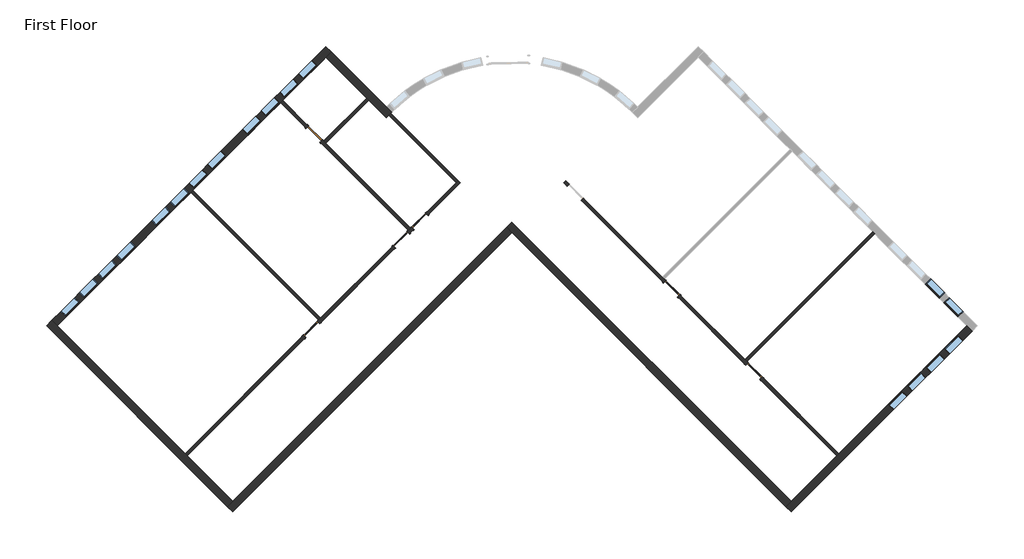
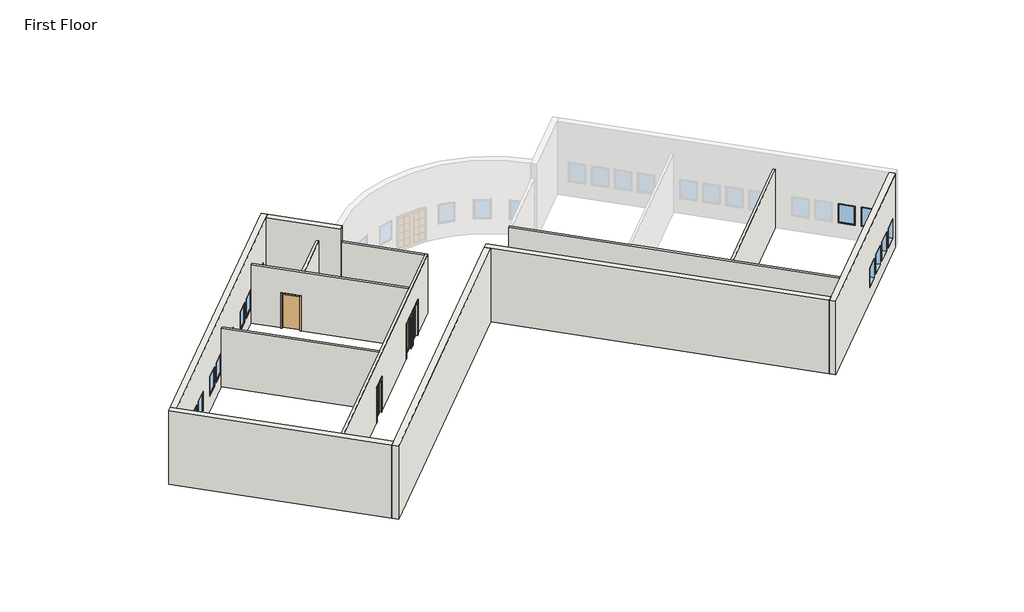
# One storey, part 1 of 2: 18 windows, 13 walls, 6 doors.
"""IFC4 building model written with IfcOpenShell, lengths in millimetres."""

import ifcopenshell
import ifcopenshell.guid

model = None  # the IFC model being written
_history = None  # IfcOwnerHistory: only IFC2X3 demands one
_inside = {}  # id of a spatial element -> (the spatial element, [elements in it])
_under = {}  # id of a project, library or spatial element -> (it, [spatial elements below it])
_declared = {}  # id of a project -> (the project, [libraries it declares])
_typed = {}  # id of a type object -> (the type object, [elements of that type])
_made_of = {}  # id of a material, layer set ... -> (it, [elements and type objects made of it])


def new_model(schema):
    """Start an empty IFC model of exactly this schema.

    Asked for "IFC4X3", IfcOpenShell would pick the latest addendum, in which some entities
    have other attributes; the version numbers below select the first issue.
    IFC2X3 requires an IfcOwnerHistory on every rooted entity: one is made here for all.
    """
    global model, _history
    if schema == "IFC4X3":
        model = ifcopenshell.file(schema_version=(4, 3, 0, 0))
    else:
        model = ifcopenshell.file(schema=schema)
    _inside.clear()
    _under.clear()
    _declared.clear()
    _typed.clear()
    _made_of.clear()
    _history = None
    if model.schema == "IFC2X3":
        org = make("IfcOrganization", Name="unknown")
        user = make(
            "IfcPersonAndOrganization",
            ThePerson=make("IfcPerson", FamilyName="unknown"),
            TheOrganization=org,
        )
        app = make(
            "IfcApplication",
            ApplicationDeveloper=org,
            Version="unknown",
            ApplicationFullName="unknown",
            ApplicationIdentifier="unknown",
        )
        _history = make(
            "IfcOwnerHistory",
            OwningUser=user,
            OwningApplication=app,
            ChangeAction="ADDED",
            CreationDate=0,
        )
    return model


def make(cls, **values):
    """One entity of the class cls with the attributes given. An attribute that is None is left unset."""
    return model.create_entity(
        cls, **{name: value for name, value in values.items() if value is not None}
    )


def rooted(cls, **values):
    """An entity with a GlobalId (a new one), such as an element, a storey or a relation."""
    return make(cls, GlobalId=ifcopenshell.guid.new(), OwnerHistory=_history, **values)


def si_unit(unit_type, name, prefix=None):
    """IfcSIUnit, for example si_unit("LENGTHUNIT", "METRE", prefix="MILLI")."""
    return make("IfcSIUnit", UnitType=unit_type, Prefix=prefix, Name=name)


def assignment(units):
    """IfcUnitAssignment: the units of a project."""
    return None if units is None else make("IfcUnitAssignment", Units=units)


def point(xyz):
    """IfcCartesianPoint."""
    return None if xyz is None else make("IfcCartesianPoint", Coordinates=xyz)


def direction(xyz):
    """IfcDirection."""
    return None if xyz is None else make("IfcDirection", DirectionRatios=xyz)


def frame(location, z_axis=None, x_axis=None):
    """IfcAxis2Placement3D, a coordinate frame: its origin and axes. An axis left out is left unset."""
    return make(
        "IfcAxis2Placement3D",
        Location=point(location),
        Axis=direction(z_axis),
        RefDirection=direction(x_axis),
    )


def frame_2d(location, x_axis=None):
    """IfcAxis2Placement2D, a coordinate frame in the plane: its origin and x axis."""
    return make(
        "IfcAxis2Placement2D", Location=point(location), RefDirection=direction(x_axis)
    )


def origin():
    """The frame at (0, 0, 0) with its axes left unset."""
    return frame((0.0, 0.0, 0.0))


def origin_with_axes():
    """The frame at (0, 0, 0) with the z axis (0, 0, 1) and the x axis (1, 0, 0) written out."""
    return frame((0.0, 0.0, 0.0), z_axis=(0.0, 0.0, 1.0), x_axis=(1.0, 0.0, 0.0))


def place(relative_to, where):
    """IfcLocalPlacement: puts the frame where relative to a parent placement (None: the world)."""
    return make(
        "IfcLocalPlacement", PlacementRelTo=relative_to, RelativePlacement=where
    )


def context(
    kind, dimensions, precision=None, world=None, true_north=None, identifier=None
):
    """IfcGeometricRepresentationContext, for example the 3D "Model" context."""
    return make(
        "IfcGeometricRepresentationContext",
        ContextIdentifier=identifier,
        ContextType=kind,
        CoordinateSpaceDimension=dimensions,
        Precision=precision,
        WorldCoordinateSystem=world,
        TrueNorth=true_north,
    )


def project(units=None, contexts=None):
    """IfcProject with its units and contexts."""
    return rooted(
        "IfcProject",
        Name="project",
        RepresentationContexts=contexts,
        UnitsInContext=assignment(units),
    )


def spatial(cls, under=None, at=None, **own):
    """A site, building, storey or space (cls), placed at a placement, below another one or the project."""
    s = rooted(cls, ObjectPlacement=at, **own)
    if under is not None:
        _under.setdefault(under.id(), (under, []))[1].append(s)
    return s


def polyline(points):
    """IfcPolyline through the points."""
    return make("IfcPolyline", Points=[point(p) for p in points])


def circle_curve(where, radius):
    """IfcCircle in the frame where."""
    return make("IfcCircle", Position=where, Radius=radius)


def trimmed(basis, trim1, trim2, sense, master):
    """IfcTrimmedCurve: the piece of a basis curve between two trims."""
    return make(
        "IfcTrimmedCurve",
        BasisCurve=basis,
        Trim1=trim1,
        Trim2=trim2,
        SenseAgreement=sense,
        MasterRepresentation=master,
    )


def segment(curve, same_sense, transition):
    """IfcCompositeCurveSegment."""
    return make(
        "IfcCompositeCurveSegment",
        Transition=transition,
        SameSense=same_sense,
        ParentCurve=curve,
    )


def composite_curve(segments, self_intersect=None):
    """IfcCompositeCurve: segments joined end to end."""
    return make("IfcCompositeCurve", Segments=segments, SelfIntersect=self_intersect)


def outline(outer, holes=None, kind="AREA"):
    """IfcArbitraryClosedProfileDef: a profile drawn as a closed curve; with holes, ...WithVoids."""
    if holes is None:
        return make("IfcArbitraryClosedProfileDef", ProfileType=kind, OuterCurve=outer)
    return make(
        "IfcArbitraryProfileDefWithVoids",
        ProfileType=kind,
        OuterCurve=outer,
        InnerCurves=holes,
    )


def extrude(swept, where, along, depth):
    """IfcExtrudedAreaSolid: the profile swept, set in the frame where, extruded along a direction by depth."""
    return make(
        "IfcExtrudedAreaSolid",
        SweptArea=swept,
        Position=where,
        ExtrudedDirection=direction(along),
        Depth=depth,
    )


def faces_of(points, faces, orient=None, outer=None):
    """IfcFace entities. A face is a list of loops; a loop is a list of indices into points, from 0.

    orient and outer hold one flag for each loop. By default every Orientation is true, the
    first loop of a face is its IfcFaceOuterBound and the others are IfcFaceBound.
    """
    made = []
    for i, loops in enumerate(faces):
        bounds = []
        for j, loop in enumerate(loops):
            is_outer = j == 0 if outer is None else outer[i][j]
            bounds.append(
                make(
                    "IfcFaceOuterBound" if is_outer else "IfcFaceBound",
                    Bound=make("IfcPolyLoop", Polygon=[points[k] for k in loop]),
                    Orientation=True if orient is None else orient[i][j],
                )
            )
        made.append(make("IfcFace", Bounds=bounds))
    return made


def faceted_brep(points, faces, orient=None, outer=None, voids=None):
    """IfcFacetedBrep: a solid bounded by flat faces; with voids (closed shells), ...WithVoids."""
    shared = [point(p) for p in points]
    hull = make("IfcClosedShell", CfsFaces=faces_of(shared, faces, orient, outer))
    if voids is None:
        return make("IfcFacetedBrep", Outer=hull)
    return make(
        "IfcFacetedBrepWithVoids",
        Outer=hull,
        Voids=[
            make(cls, CfsFaces=faces_of(shared, fs, o, b)) for cls, fs, o, b in voids
        ],
    )


def shape(context_of_items, identifier, shape_type, items):
    """IfcShapeRepresentation: the items that make up one representation, for example the "Body"."""
    return make(
        "IfcShapeRepresentation",
        ContextOfItems=context_of_items,
        RepresentationIdentifier=identifier,
        RepresentationType=shape_type,
        Items=items,
    )


def source(mapping_origin, context_of_items, identifier, shape_type, items):
    """IfcRepresentationMap: a shape defined once, which mapped items show again and again."""
    return make(
        "IfcRepresentationMap",
        MappingOrigin=mapping_origin,
        MappedRepresentation=shape(context_of_items, identifier, shape_type, items),
    )


def transform(
    local_origin,
    x_axis=None,
    y_axis=None,
    z_axis=None,
    scale=None,
    scale2=None,
    scale3=None,
    uniform=True,
):
    """IfcCartesianTransformationOperator3D, or its non-uniform kind. x_axis, y_axis, z_axis: its Axis1, 2, 3."""
    if uniform:
        return make(
            "IfcCartesianTransformationOperator3D",
            Axis1=direction(x_axis),
            Axis2=direction(y_axis),
            LocalOrigin=point(local_origin),
            Scale=scale,
            Axis3=direction(z_axis),
        )
    return make(
        "IfcCartesianTransformationOperator3DnonUniform",
        Axis1=direction(x_axis),
        Axis2=direction(y_axis),
        LocalOrigin=point(local_origin),
        Scale=scale,
        Axis3=direction(z_axis),
        Scale2=scale2,
        Scale3=scale3,
    )


def mapped(mapping_source, mapping_target):
    """IfcMappedItem: shows the shape of a source again, moved by a transform."""
    return make(
        "IfcMappedItem", MappingSource=mapping_source, MappingTarget=mapping_target
    )


def made_of(thing, what):
    """Note that an element or type object is made of a material, layer set ...; save() writes the relation."""
    if what is not None:
        _made_of.setdefault(what.id(), (what, []))[1].append(thing)
    return thing


def element(
    cls,
    number,
    at=None,
    inside=None,
    cuts=None,
    type_object=None,
    material=None,
    context=None,
    identifier="Body",
    shape_type=None,
    held_by="IfcProductDefinitionShape",
    body=None,
    shapes=None,
    **own,
):
    """One element of the class cls, such as IfcWall. Its Tag is "e" and its number.

    at: its placement. inside: the storey or other place that contains it. cuts: it is an
    opening in that element (IfcRelVoidsElement). A single representation is given by context,
    identifier, shape_type and body (its items); several are given by shapes. held_by: the class
    of the entity that holds the representations. save() writes the other relations.
    """
    e = rooted(cls, Tag="e%d" % number, ObjectPlacement=at, **own)
    if body is not None:
        shapes = [shape(context, identifier, shape_type, body)]
    if shapes is not None:
        e.Representation = make(held_by, Representations=shapes)
    if inside is not None:
        _inside.setdefault(inside.id(), (inside, []))[1].append(e)
    if cuts is not None:
        rooted(
            "IfcRelVoidsElement", RelatingBuildingElement=cuts, RelatedOpeningElement=e
        )
    if type_object is not None:
        _typed.setdefault(type_object.id(), (type_object, []))[1].append(e)
    return made_of(e, material)


def aggregate(whole, parts):
    """IfcRelAggregates: a whole, such as a stair, and the parts it consists of."""
    return rooted("IfcRelAggregates", RelatingObject=whole, RelatedObjects=parts)


def save(model, path):
    """Write the relations noted so far, then the file.

    IfcRelAggregates (storeys below a building ...), IfcRelContainedInSpatialStructure (elements
    in a storey), IfcRelDefinesByType, IfcRelAssociatesMaterial and IfcRelDeclares: one each for
    every whole, place, type object, material and project.
    """
    for whole, parts in _under.values():
        aggregate(whole, parts)
    for where, things in _inside.values():
        rooted(
            "IfcRelContainedInSpatialStructure",
            RelatedElements=things,
            RelatingStructure=where,
        )
    for kind, things in _typed.values():
        rooted("IfcRelDefinesByType", RelatedObjects=things, RelatingType=kind)
    for what, things in _made_of.values():
        rooted("IfcRelAssociatesMaterial", RelatedObjects=things, RelatingMaterial=what)
    for by, libraries in _declared.values():
        rooted("IfcRelDeclares", RelatingContext=by, RelatedDefinitions=libraries)
    model.write(path)


def plane_surface(at):
    """IfcPlane: the flat surface through the origin of the frame at, square to its z axis."""
    return make("IfcPlane", Position=at)


def revolved_surface(curve, axis_point, axis_direction):
    """IfcSurfaceOfRevolution: the curve turned about the line through axis_point along axis_direction."""
    return make(
        "IfcSurfaceOfRevolution",
        SweptCurve=make("IfcArbitraryOpenProfileDef", ProfileType="CURVE", Curve=curve),
        AxisPosition=make("IfcAxis1Placement", Location=point(axis_point), Axis=direction(axis_direction)),
    )


def advanced_brep(points, edges, surfaces, faces):
    """IfcAdvancedBrep: a solid bounded by faces that lie on surfaces and meet in shared edges.

    An edge is (start, end): straight between two places in points (the first is 0);
    or (start, end, curve); or (start, end, curve, False) where it runs against its curve.
    A face is (place in surfaces, loops), or (place, loops, False) where it looks against
    its surface's normal. A loop lists edges by number (the first is 1), with a minus sign
    where the edge is run from its end to its start. The first loop is the outer one.
    """
    corners = [point(p) for p in points]
    vertices = [make("IfcVertexPoint", VertexGeometry=c) for c in corners]
    made = []
    for start, end, *more in edges:
        made.append(
            make(
                "IfcEdgeCurve",
                EdgeStart=vertices[start],
                EdgeEnd=vertices[end],
                EdgeGeometry=more[0] if more else make("IfcPolyline", Points=[corners[start], corners[end]]),
                SameSense=more[1] if len(more) > 1 else True,
            )
        )
    hull = []
    for where, loops, *sense in faces:
        bounds = []
        for j, loop in enumerate(loops):
            ring = [make("IfcOrientedEdge", EdgeElement=made[abs(k) - 1], Orientation=k > 0) for k in loop]
            bounds.append(
                make(
                    "IfcFaceOuterBound" if j == 0 else "IfcFaceBound",
                    Bound=make("IfcEdgeLoop", EdgeList=ring),
                    Orientation=True,
                )
            )
        hull.append(make("IfcAdvancedFace", Bounds=bounds, FaceSurface=surfaces[where], SameSense=sense[0] if sense else True))
    return make("IfcAdvancedBrep", Outer=make("IfcClosedShell", CfsFaces=hull))


def m_single_flush_0915_x_2134mm_83e8e835(model_context):
    return source(origin(), model_context, "Body", "SweptSolid", [
        extrude(outline(polyline([(2210.0, -533.5), (0.0, -533.5), (0.0, -457.5), (2134.0, -457.5), (2134.0, 457.5), (0.0, 457.5), (0.0, 533.5), (2210.0, 533.5), (2210.0, -533.5)])), frame((0.0, 69.25, 0.0), z_axis=(0.0, 1.0, 0.0), x_axis=(0.0, 0.0, 1.0)), (0.0, 0.0, 1.0), 25.0),
        extrude(outline(polyline([(2210.0, 533.5), (2210.0, -533.5), (0.0, -533.5), (0.0, -457.5), (2134.0, -457.5), (2134.0, 457.5), (0.0, 457.5), (0.0, 533.5), (2210.0, 533.5)])), frame((0.0, -94.25, 0.0), z_axis=(0.0, 1.0, 0.0), x_axis=(0.0, 0.0, 1.0)), (0.0, 0.0, 1.0), 25.0),
        extrude(outline(polyline([(457.5, 18.25), (-457.5, 18.25), (-457.5, 69.25), (457.5, 69.25), (457.5, 18.25)])), origin_with_axes(), (0.0, 0.0, 1.0), 2134.0),
    ])


def m_single_glass_1_0915_x_2134mm_fb3287b7(model_context):
    return source(origin(), model_context, "Body", "SweptSolid", [
        extrude(outline(polyline([(2134.0, 457.5), (0.0, 457.5), (0.0, 533.5), (2210.0, 533.5), (2210.0, -533.5), (0.0, -533.5), (0.0, -457.5), (2134.0, -457.5), (2134.0, 457.5)])), frame((0.0, -94.25, 0.0), z_axis=(0.0, 1.0, 0.0), x_axis=(0.0, 0.0, 1.0)), (0.0, 0.0, 1.0), 25.0),
        extrude(outline(polyline([(2134.0, 457.5), (0.0, 457.5), (0.0, 533.5), (2210.0, 533.5), (2210.0, -533.5), (0.0, -533.5), (0.0, -457.5), (2134.0, -457.5), (2134.0, 457.5)])), frame((0.0, 69.25, 0.0), z_axis=(0.0, 1.0, 0.0), x_axis=(0.0, 0.0, 1.0)), (0.0, 0.0, 1.0), 25.0),
        extrude(outline(polyline([(355.5, 40.675), (-355.5, 40.675), (-355.5, 47.025), (355.5, 47.025), (355.5, 40.675)])), frame((0.0, 0.0, 102.0), z_axis=(0.0, 0.0, 1.0), x_axis=(1.0, 0.0, 0.0)), (0.0, 0.0, 1.0), 1930.0),
        extrude(outline(polyline([(2134.0, 457.5), (2134.0, -457.5), (0.0, -457.5), (0.0, 457.5), (2134.0, 457.5)]), holes=[polyline([(2032.0, -355.5), (2032.0, 355.5), (102.0, 355.5), (102.0, -355.5), (2032.0, -355.5)])]), frame((0.0, 18.25, 0.0), z_axis=(0.0, 1.0, 0.0), x_axis=(0.0, 0.0, 1.0)), (0.0, 0.0, 1.0), 51.0),
    ])


def m_single_glass_1_0915_x_2134mm_4e5e1233(model_context):
    return source(origin(), model_context, "Body", "SweptSolid", [
        extrude(outline(polyline([(2134.0, 457.5), (0.0, 457.5), (0.0, 533.5), (2210.0, 533.5), (2210.0, -533.5), (0.0, -533.5), (0.0, -457.5), (2134.0, -457.5), (2134.0, 457.5)])), frame((0.0, 69.25, 0.0), z_axis=(0.0, 1.0, 0.0), x_axis=(0.0, 0.0, 1.0)), (0.0, 0.0, 1.0), 25.0),
        extrude(outline(polyline([(2134.0, 457.5), (0.0, 457.5), (0.0, 533.5), (2210.0, 533.5), (2210.0, -533.5), (0.0, -533.5), (0.0, -457.5), (2134.0, -457.5), (2134.0, 457.5)])), frame((0.0, -94.25, 0.0), z_axis=(0.0, 1.0, 0.0), x_axis=(0.0, 0.0, 1.0)), (0.0, 0.0, 1.0), 25.0),
        extrude(outline(polyline([(355.5, -40.675), (355.5, -47.025), (-355.5, -47.025), (-355.5, -40.675), (355.5, -40.675)])), frame((0.0, 0.0, 102.0), z_axis=(0.0, 0.0, 1.0), x_axis=(1.0, 0.0, 0.0)), (0.0, 0.0, 1.0), 1930.0),
        extrude(outline(polyline([(2134.0, 457.5), (2134.0, -457.5), (0.0, -457.5), (0.0, 457.5), (2134.0, 457.5)]), holes=[polyline([(2032.0, -355.5), (2032.0, 355.5), (102.0, 355.5), (102.0, -355.5), (2032.0, -355.5)])]), frame((0.0, -69.25, 0.0), z_axis=(0.0, 1.0, 0.0), x_axis=(0.0, 0.0, 1.0)), (0.0, 0.0, 1.0), 51.0),
    ])


def m_fixed_0915_x_1220mm_bde29121(model_context):
    return source(origin(), model_context, "Body", "SweptSolid", [
        extrude(outline(polyline([(-394.5, 153.0), (394.5, 153.0), (394.5, 141.0), (-394.5, 141.0), (-394.5, 153.0)])), frame((0.0, 0.0, 978.0), z_axis=(0.0, 0.0, 1.0), x_axis=(1.0, 0.0, 0.0)), (0.0, 0.0, 1.0), 1094.0),
        extrude(outline(polyline([(2116.0, -438.5), (934.0, -438.5), (934.0, 438.5), (2116.0, 438.5), (2116.0, -438.5)]), holes=[polyline([(2072.0, -394.5), (2072.0, 394.5), (978.0, 394.5), (978.0, -394.5), (2072.0, -394.5)])]), frame((0.0, 125.0, 0.0), z_axis=(0.0, 1.0, 0.0), x_axis=(0.0, 0.0, 1.0)), (0.0, 0.0, 1.0), 44.0),
        extrude(outline(polyline([(2135.0, -457.5), (915.0, -457.5), (915.0, 457.5), (2135.0, 457.5), (2135.0, -457.5)]), holes=[polyline([(2116.0, -438.5), (2116.0, 438.5), (934.0, 438.5), (934.0, -438.5), (2116.0, -438.5)])]), frame((0.0, 125.0, 0.0), z_axis=(0.0, 1.0, 0.0), x_axis=(0.0, 0.0, 1.0)), (0.0, 0.0, 1.0), 63.0),
        extrude(outline(polyline([(2135.0, -457.5), (915.0, -457.5), (915.0, 457.5), (2135.0, 457.5), (2135.0, -457.5)]), holes=[polyline([(2103.0, -425.5), (2103.0, 425.5), (947.0, 425.5), (947.0, -425.5), (2103.0, -425.5)])]), frame((0.0, -162.0, 0.0), z_axis=(0.0, 1.0, 0.0), x_axis=(0.0, 0.0, 1.0)), (0.0, 0.0, 1.0), 287.0),
    ])


def m_fixed_0915_x_1220mm_2a2509e7(model_context):
    return source(origin(), model_context, "Body", "SweptSolid", [
        extrude(outline(polyline([(-394.5, -153.0), (-394.5, -141.0), (394.5, -141.0), (394.5, -153.0), (-394.5, -153.0)])), frame((0.0, 0.0, 978.0), z_axis=(0.0, 0.0, 1.0), x_axis=(1.0, 0.0, 0.0)), (0.0, 0.0, 1.0), 1094.0),
        extrude(outline(polyline([(2116.0, -438.5), (934.0, -438.5), (934.0, 438.5), (2116.0, 438.5), (2116.0, -438.5)]), holes=[polyline([(2072.0, -394.5), (2072.0, 394.5), (978.0, 394.5), (978.0, -394.5), (2072.0, -394.5)])]), frame((0.0, -169.0, 0.0), z_axis=(0.0, 1.0, 0.0), x_axis=(0.0, 0.0, 1.0)), (0.0, 0.0, 1.0), 44.0),
        extrude(outline(polyline([(2135.0, -457.5), (915.0, -457.5), (915.0, 457.5), (2135.0, 457.5), (2135.0, -457.5)]), holes=[polyline([(2116.0, -438.5), (2116.0, 438.5), (934.0, 438.5), (934.0, -438.5), (2116.0, -438.5)])]), frame((0.0, -188.0, 0.0), z_axis=(0.0, 1.0, 0.0), x_axis=(0.0, 0.0, 1.0)), (0.0, 0.0, 1.0), 63.0),
        extrude(outline(polyline([(2135.0, -457.5), (915.0, -457.5), (915.0, 457.5), (2135.0, 457.5), (2135.0, -457.5)]), holes=[polyline([(2103.0, -425.5), (2103.0, 425.5), (947.0, 425.5), (947.0, -425.5), (2103.0, -425.5)])]), frame((0.0, -125.0, 0.0), z_axis=(0.0, 1.0, 0.0), x_axis=(0.0, 0.0, 1.0)), (0.0, 0.0, 1.0), 287.0),
    ])


model = new_model("IFC4")

# Units and contexts
model_context = context("Model", 3, world=origin())
ifc_project = project(units=[si_unit("LENGTHUNIT", "METRE", prefix="MILLI")], contexts=[model_context])

# Site, building, storey
site = spatial("IfcSite", under=ifc_project)
building = spatial("IfcBuilding", under=site)
storey = spatial("IfcBuildingStorey", under=building, Name="First Floor", Elevation=0.0)

# Doors
placement = place(None, origin())
m_single_flush_0915_x_2134mm_shape = m_single_flush_0915_x_2134mm_83e8e835(model_context)
element("IfcDoor", 1, ObjectType="M_Single-Flush : 0915 x 2134mm", at=placement, inside=storey, context=model_context, shape_type="MappedRepresentation", body=[
    mapped(m_single_flush_0915_x_2134mm_shape, transform((-10762.6979297, 6563.7995594, 0.0), x_axis=(0.7071067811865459, -0.7071067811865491, 0.0), y_axis=(0.7071067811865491, 0.7071067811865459, 0.0), z_axis=(0.0, 0.0, 1.0))),
])
m_single_glass_1_0915_x_2134mm_shape = m_single_glass_1_0915_x_2134mm_fb3287b7(model_context)
element("IfcDoor", 2, ObjectType="M_Single-Glass 1 : 0915 x 2134mm", at=placement, inside=storey, context=model_context, shape_type="MappedRepresentation", body=[
    mapped(m_single_glass_1_0915_x_2134mm_shape, transform((-10885.2041795, -2483.8084826, 0.0), x_axis=(0.7071067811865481, 0.7071067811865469, 0.0), y_axis=(-0.7071067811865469, 0.7071067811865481, 0.0), z_axis=(0.0, 0.0, 1.0))),
])
element("IfcDoor", 3, ObjectType="M_Single-Glass 1 : 0915 x 2134mm", at=placement, inside=storey, context=model_context, shape_type="MappedRepresentation", body=[
    mapped(m_single_glass_1_0915_x_2134mm_shape, transform((-6731.4821701, 1669.9135268, 0.0), x_axis=(0.7071067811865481, 0.7071067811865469, 0.0), y_axis=(-0.7071067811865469, 0.7071067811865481, 0.0), z_axis=(0.0, 0.0, 1.0))),
])
m_single_glass_1_0915_x_2134mm_2_shape = m_single_glass_1_0915_x_2134mm_4e5e1233(model_context)
element("IfcDoor", 4, ObjectType="M_Single-Glass 1 : 0915 x 2134mm", at=placement, inside=storey, context=model_context, shape_type="MappedRepresentation", body=[
    mapped(m_single_glass_1_0915_x_2134mm_2_shape, transform((-5868.8118971, 2532.5837999, 0.0), x_axis=(-0.7071067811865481, -0.7071067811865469, 0.0), y_axis=(0.7071067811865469, -0.7071067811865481, 0.0), z_axis=(0.0, 0.0, 1.0))),
])
element("IfcDoor", 5, ObjectType="M_Single-Glass 1 : 0915 x 2134mm", at=placement, inside=storey, context=model_context, shape_type="MappedRepresentation", body=[
    mapped(m_single_glass_1_0915_x_2134mm_2_shape, transform((5790.8485946, -591.9442895, 0.0), x_axis=(-0.7071067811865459, 0.7071067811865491, 0.0), y_axis=(-0.7071067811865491, -0.7071067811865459, 0.0), z_axis=(0.0, 0.0, 1.0))),
])
element("IfcDoor", 6, ObjectType="M_Single-Glass 1 : 0915 x 2134mm", at=placement, inside=storey, context=model_context, shape_type="MappedRepresentation", body=[
    mapped(m_single_glass_1_0915_x_2134mm_2_shape, transform((9606.3967859, -4407.4924808, 0.0), x_axis=(-0.7071067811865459, 0.7071067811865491, 0.0), y_axis=(-0.7071067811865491, -0.7071067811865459, 0.0), z_axis=(0.0, 0.0, 1.0))),
])

# Walls
element("IfcWall", 7, ObjectType="Exterior - Brick on Mtl. Stud", at=placement, inside=storey, context=model_context, shape_type="Brep", body=[
    faceted_brep([(19456.3942478, -2315.870622, 0.0), (13534.5517321, -8237.7131378, 0.0), (13436.6174429, -8335.647427, 0.0), (11330.3231184, -10441.9417514, 0.0), (11082.835745, -10689.4291248, 0.0), (11082.835745, -10689.4291248, 4572.0), (11330.3231184, -10441.9417514, 4572.0), (19456.3942478, -2315.870622, 4572.0), (16455.7866219, -5316.478248, 915.0), (16455.7866219, -5316.478248, 2135.0), (15808.7839171, -5963.4809528, 2135.0), (15808.7839171, -5963.4809528, 915.0), (17317.7497881, -4454.5150817, 915.0), (17317.7497881, -4454.5150817, 2135.0), (16670.7470833, -5101.5177865, 2135.0), (16670.7470833, -5101.5177865, 915.0), (18179.7129544, -3592.5519155, 915.0), (18179.7129544, -3592.5519155, 2135.0), (17532.7102496, -4239.5546203, 2135.0), (17532.7102496, -4239.5546203, 915.0), (19041.6761207, -2730.5887492, 915.0), (19041.6761207, -2730.5887492, 2135.0), (18394.6734159, -3377.591454, 2135.0), (18394.6734159, -3377.591454, 915.0), (19703.8816212, -2563.3579955, 0.0), (19703.8816212, -2563.3579955, 4572.0), (11330.3231184, -10936.9164983, 4572.0), (11330.3231184, -10936.9164983, 0.0), (16703.2739953, -5563.9656214, 915.0), (16056.2712905, -6210.9683262, 915.0), (16056.2712905, -6210.9683262, 2135.0), (16703.2739953, -5563.9656214, 2135.0), (17565.2371615, -4702.0024552, 915.0), (16918.2344568, -5349.0051599, 915.0), (16918.2344568, -5349.0051599, 2135.0), (17565.2371615, -4702.0024552, 2135.0), (18427.2003278, -3840.0392889, 915.0), (17780.197623, -4487.0419937, 915.0), (17780.197623, -4487.0419937, 2135.0), (18427.2003278, -3840.0392889, 2135.0), (19289.1634941, -2978.0761226, 915.0), (18642.1607893, -3625.0788274, 915.0), (18642.1607893, -3625.0788274, 2135.0), (19289.1634941, -2978.0761226, 2135.0)], [[[0, 1, 2, 3, 4, 5, 6, 7], [8, 9, 10, 11], [12, 13, 14, 15], [16, 17, 18, 19], [20, 21, 22, 23]], [[24, 25, 26, 27], [28, 29, 30, 31], [32, 33, 34, 35], [36, 37, 38, 39], [40, 41, 42, 43]], [[4, 3, 2, 1, 0, 24, 27]], [[7, 6, 5, 26, 25]], [[0, 7, 25, 24]], [[5, 4, 27, 26]], [[9, 8, 28, 31]], [[10, 9, 31, 30]], [[11, 10, 30, 29]], [[8, 11, 29, 28]], [[13, 12, 32, 35]], [[14, 13, 35, 34]], [[15, 14, 34, 33]], [[12, 15, 33, 32]], [[17, 16, 36, 39]], [[18, 17, 39, 38]], [[19, 18, 38, 37]], [[16, 19, 37, 36]], [[21, 20, 40, 43]], [[22, 21, 43, 42]], [[23, 22, 42, 41]], [[20, 23, 41, 40]]]),
])
element("IfcWall", 8, ObjectType="Exterior - Brick on Mtl. Stud", at=placement, inside=storey, context=model_context, shape_type="Brep", body=[
    faceted_brep([(11330.3231184, -10441.9417514, 0.0), (-1601.2456959, 2489.6270629, 0.0), (-1601.2456959, 2489.6270629, 4572.0), (11330.3231184, -10441.9417514, 4572.0), (11082.835745, -10689.4291248, 0.0), (11082.835745, -10689.4291248, 4572.0), (-1601.2456959, 1994.6523161, 4572.0), (-1848.7330693, 2242.1396895, 4572.0), (-1848.7330693, 2242.1396895, 0.0), (-1601.2456959, 1994.6523161, 0.0)], [[[0, 1, 2, 3]], [[4, 5, 6, 7, 8, 9]], [[1, 0, 4, 9, 8]], [[3, 2, 7, 6, 5]], [[0, 3, 5, 4]], [[2, 1, 8, 7]]]),
])
element("IfcWall", 9, ObjectType="Exterior - Brick on Mtl. Stud", at=placement, inside=storey, context=model_context, shape_type="Brep", body=[
    faceted_brep([(-1848.7330693, 2242.1396895, 0.0), (-14532.8145102, -10441.9417514, 0.0), (-14780.3018837, -10689.4291248, 0.0), (-14780.3018837, -10689.4291248, 4572.0), (-14532.8145102, -10441.9417514, 4572.0), (-1848.7330693, 2242.1396895, 4572.0), (-1601.2456959, 1994.6523161, 0.0), (-1601.2456959, 1994.6523161, 4572.0), (-14532.8145102, -10936.9164983, 4572.0), (-14532.8145102, -10936.9164983, 0.0)], [[[0, 1, 2, 3, 4, 5]], [[6, 7, 8, 9]], [[2, 1, 0, 6, 9]], [[5, 4, 3, 8, 7]], [[0, 5, 7, 6]], [[3, 2, 9, 8]]]),
])
element("IfcWall", 10, ObjectType="Exterior - Brick on Mtl. Stud", at=placement, inside=storey, context=model_context, shape_type="Brep", body=[
    faceted_brep([(-14532.8145102, -10441.9417514, 0.0), (-16639.1088347, -8335.647427, 0.0), (-16737.0431239, -8237.7131378, 0.0), (-22658.8856396, -2315.870622, 0.0), (-22906.3730131, -2068.3832486, 0.0), (-22906.3730131, -2068.3832486, 4572.0), (-22658.8856396, -2315.870622, 4572.0), (-14532.8145102, -10441.9417514, 4572.0), (-14780.3018837, -10689.4291248, 0.0), (-14780.3018837, -10689.4291248, 4572.0), (-23153.8603865, -2315.870622, 4572.0), (-23153.8603865, -2315.870622, 0.0)], [[[0, 1, 2, 3, 4, 5, 6, 7]], [[8, 9, 10, 11]], [[4, 3, 2, 1, 0, 8, 11]], [[7, 6, 5, 10, 9]], [[0, 7, 9, 8]], [[5, 4, 11, 10]]]),
])
element("IfcWall", 11, ObjectType="Exterior - Brick on Mtl. Stud", at=placement, inside=storey, context=model_context, shape_type="Brep", body=[
    faceted_brep([(-22658.8856396, -2315.870622, 0.0), (-16473.6458479, 3869.3691697, 0.0), (-16375.7115587, 3967.3034589, 0.0), (-12319.9238385, 8023.0911791, 0.0), (-12221.9895493, 8121.0254683, 0.0), (-10222.2915721, 10120.7234455, 0.0), (-9974.8041987, 10368.2108189, 0.0), (-9974.8041987, 10368.2108189, 4572.0), (-10222.2915721, 10120.7234455, 4572.0), (-22658.8856396, -2315.870622, 4572.0), (-21597.1648077, -1254.1497901, 915.0), (-22244.1675125, -1901.1524949, 915.0), (-22244.1675125, -1901.1524949, 2135.0), (-21597.1648077, -1254.1497901, 2135.0), (-20735.2016414, -392.1866238, 915.0), (-21382.2043462, -1039.1893286, 915.0), (-21382.2043462, -1039.1893286, 2135.0), (-20735.2016414, -392.1866238, 2135.0), (-19011.2753089, 1331.7397087, 915.0), (-19658.2780137, 684.7370039, 915.0), (-19658.2780137, 684.7370039, 2135.0), (-19011.2753089, 1331.7397087, 2135.0), (-19873.2384752, 469.7765424, 915.0), (-20520.2411799, -177.2261623, 915.0), (-20520.2411799, -177.2261623, 2135.0), (-19873.2384752, 469.7765424, 2135.0), (-13838.0820977, 6504.9329199, 915.0), (-13838.0820977, 6504.9329199, 2135.0), (-13191.0793929, 7151.9356247, 2135.0), (-13191.0793929, 7151.9356247, 915.0), (-12976.1189315, 7366.8960861, 915.0), (-12976.1189315, 7366.8960861, 2135.0), (-12329.1162267, 8013.8987909, 2135.0), (-12329.1162267, 8013.8987909, 915.0), (-12114.1557652, 8228.8592524, 915.0), (-12114.1557652, 8228.8592524, 2135.0), (-11467.1530604, 8875.8619572, 2135.0), (-11467.1530604, 8875.8619572, 915.0), (-11252.1925989, 9090.8224187, 915.0), (-11252.1925989, 9090.8224187, 2135.0), (-10605.1898941, 9737.8251235, 2135.0), (-10605.1898941, 9737.8251235, 915.0), (-14808.2326015, 5534.7824161, 915.0), (-15455.2353063, 4887.7797113, 915.0), (-15455.2353063, 4887.7797113, 2135.0), (-14808.2326015, 5534.7824161, 2135.0), (-15670.1957678, 4672.8192498, 915.0), (-16317.1984726, 4025.816545, 915.0), (-16317.1984726, 4025.816545, 2135.0), (-15670.1957678, 4672.8192498, 2135.0), (-16532.1589341, 3810.8560836, 915.0), (-17179.1616388, 3163.8533788, 915.0), (-17179.1616388, 3163.8533788, 2135.0), (-16532.1589341, 3810.8560836, 2135.0), (-17394.1221003, 2948.8929173, 915.0), (-18041.1248051, 2301.8902125, 915.0), (-18041.1248051, 2301.8902125, 2135.0), (-17394.1221003, 2948.8929173, 2135.0), (-22906.3730131, -2068.3832486, 0.0), (-22906.3730131, -2068.3832486, 4572.0), (-10222.2915721, 10615.6981923, 4572.0), (-10222.2915721, 10615.6981923, 0.0), (-21844.6521811, -1006.6624167, 915.0), (-21844.6521811, -1006.6624167, 2135.0), (-22491.6548859, -1653.6651215, 2135.0), (-22491.6548859, -1653.6651215, 915.0), (-20982.6890148, -144.6992504, 915.0), (-20982.6890148, -144.6992504, 2135.0), (-21629.6917196, -791.7019552, 2135.0), (-21629.6917196, -791.7019552, 915.0), (-19258.7626823, 1579.2270821, 915.0), (-19258.7626823, 1579.2270821, 2135.0), (-19905.7653871, 932.2243773, 2135.0), (-19905.7653871, 932.2243773, 915.0), (-20120.7258486, 717.2639159, 915.0), (-20120.7258486, 717.2639159, 2135.0), (-20767.7285534, 70.2612111, 2135.0), (-20767.7285534, 70.2612111, 915.0), (-14085.5694711, 6752.4202933, 915.0), (-13438.5667664, 7399.4229981, 915.0), (-13438.5667664, 7399.4229981, 2135.0), (-14085.5694711, 6752.4202933, 2135.0), (-13223.6063049, 7614.3834596, 915.0), (-12576.6036001, 8261.3861643, 915.0), (-12576.6036001, 8261.3861643, 2135.0), (-13223.6063049, 7614.3834596, 2135.0), (-12361.6431386, 8476.3466258, 915.0), (-11714.6404338, 9123.3493306, 915.0), (-11714.6404338, 9123.3493306, 2135.0), (-12361.6431386, 8476.3466258, 2135.0), (-11499.6799723, 9338.3097921, 915.0), (-10852.6772676, 9985.3124969, 915.0), (-10852.6772676, 9985.3124969, 2135.0), (-11499.6799723, 9338.3097921, 2135.0), (-15055.7199749, 5782.2697895, 915.0), (-15055.7199749, 5782.2697895, 2135.0), (-15702.7226797, 5135.2670847, 2135.0), (-15702.7226797, 5135.2670847, 915.0), (-15917.6831412, 4920.3066232, 915.0), (-15917.6831412, 4920.3066232, 2135.0), (-16564.685846, 4273.3039184, 2135.0), (-16564.685846, 4273.3039184, 915.0), (-16779.6463075, 4058.343457, 915.0), (-16779.6463075, 4058.343457, 2135.0), (-17426.6490123, 3411.3407522, 2135.0), (-17426.6490123, 3411.3407522, 915.0), (-17641.6094737, 3196.3802907, 915.0), (-17641.6094737, 3196.3802907, 2135.0), (-18288.6121785, 2549.3775859, 2135.0), (-18288.6121785, 2549.3775859, 915.0)], [[[0, 1, 2, 3, 4, 5, 6, 7, 8, 9], [10, 11, 12, 13], [14, 15, 16, 17], [18, 19, 20, 21], [22, 23, 24, 25], [26, 27, 28, 29], [30, 31, 32, 33], [34, 35, 36, 37], [38, 39, 40, 41], [42, 43, 44, 45], [46, 47, 48, 49], [50, 51, 52, 53], [54, 55, 56, 57]], [[58, 59, 60, 61], [62, 63, 64, 65], [66, 67, 68, 69], [70, 71, 72, 73], [74, 75, 76, 77], [78, 79, 80, 81], [82, 83, 84, 85], [86, 87, 88, 89], [90, 91, 92, 93], [94, 95, 96, 97], [98, 99, 100, 101], [102, 103, 104, 105], [106, 107, 108, 109]], [[6, 5, 4, 3, 2, 1, 0, 58, 61]], [[9, 8, 7, 60, 59]], [[0, 9, 59, 58]], [[7, 6, 61, 60]], [[63, 62, 10, 13]], [[64, 63, 13, 12]], [[65, 64, 12, 11]], [[62, 65, 11, 10]], [[67, 66, 14, 17]], [[68, 67, 17, 16]], [[69, 68, 16, 15]], [[66, 69, 15, 14]], [[71, 70, 18, 21]], [[72, 71, 21, 20]], [[73, 72, 20, 19]], [[70, 73, 19, 18]], [[75, 74, 22, 25]], [[76, 75, 25, 24]], [[77, 76, 24, 23]], [[74, 77, 23, 22]], [[27, 26, 78, 81]], [[28, 27, 81, 80]], [[29, 28, 80, 79]], [[26, 29, 79, 78]], [[31, 30, 82, 85]], [[32, 31, 85, 84]], [[33, 32, 84, 83]], [[30, 33, 83, 82]], [[35, 34, 86, 89]], [[36, 35, 89, 88]], [[37, 36, 88, 87]], [[34, 37, 87, 86]], [[39, 38, 90, 93]], [[40, 39, 93, 92]], [[41, 40, 92, 91]], [[38, 41, 91, 90]], [[95, 94, 42, 45]], [[96, 95, 45, 44]], [[97, 96, 44, 43]], [[94, 97, 43, 42]], [[99, 98, 46, 49]], [[100, 99, 49, 48]], [[101, 100, 48, 47]], [[98, 101, 47, 46]], [[103, 102, 50, 53]], [[104, 103, 53, 52]], [[105, 104, 52, 51]], [[102, 105, 51, 50]], [[107, 106, 54, 57]], [[108, 107, 57, 56]], [[109, 108, 56, 55]], [[106, 109, 55, 54]]]),
])
element("IfcWall", 12, ObjectType="Exterior - Brick on Mtl. Stud", at=placement, inside=storey, context=model_context, shape_type="AdvancedBrep", body=[
    advanced_brep(
    [(-10222.2915721, 10120.7234455, 0.0), (-8331.6648159, 8230.0966893, 0.0), (-8233.7305267, 8132.1624001, 0.0), (-7415.2355619, 7313.6674352, 0.0), (-7415.2355619, 7313.6674352, 4572.0), (-10222.2915721, 10120.7234455, 4572.0), (-9974.8041987, 10368.2108189, 0.0), (-9974.8041987, 10368.2108189, 4572.0), (-7420.7345051, 7814.1411252, 4572.0), (-7173.2471317, 7566.6537518, 4572.0), (-7173.2471317, 7566.6537518, 0.0), (-7420.7345051, 7814.1411252, 0.0), (-7216.0420231, 7523.5275434, 0.0), (-7312.3552714, 7423.9826013, 0.0)],
    [
        (0, 1),
        (1, 2),
        (2, 3),
        (3, 4),
        (4, 5),
        (5, 0),
        (6, 7),
        (7, 8),
        (8, 9),
        (9, 10),
        (10, 11),
        (11, 6),
        (0, 6),
        (10, 12, circle_curve(frame((-1601.2456959, 1994.6523161, 0.0), z_axis=(0.0, 0.0, 1.0), x_axis=(1.0, 0.0, 0.0)), 7880.0)),
        (12, 13, circle_curve(frame((-1601.2456959, 1994.6523161, 0.0), z_axis=(0.0, 0.0, 1.0), x_axis=(1.0, 0.0, 0.0)), 7879.9999413)),
        (13, 3, circle_curve(frame((-1601.2456959, 1994.6523161, 0.0), z_axis=(0.0, 0.0, 1.0), x_axis=(1.0, 0.0, 0.0)), 7879.9999955)),
        (4, 9, circle_curve(frame((-1601.2456959, 1994.6523161, 4572.0), z_axis=(0.0, 0.0, -1.0), x_axis=(1.0, 0.0, 0.0)), 7880.0)),
        (7, 5),
    ],
    [
        plane_surface(frame((-10469.7789456, 10368.2108189, 0.0), z_axis=(-0.7071067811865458, -0.7071067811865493, 0.0), x_axis=(0.7071067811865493, -0.7071067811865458, 0.0))),
        plane_surface(frame((-10222.2915721, 10615.6981923, 0.0), z_axis=(0.7071067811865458, 0.7071067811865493, 0.0), x_axis=(-0.7071067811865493, 0.7071067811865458, 0.0))),
        plane_surface(frame((-10346.0352588, 10244.4671322, 0.0), z_axis=(0.0, 0.0, -1.0000000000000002), x_axis=(0.7071067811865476, 0.7071067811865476, 0.0))),
        plane_surface(frame((-7543.133828, 7441.5657013, 4572.0), z_axis=(0.0, 0.0, 1.0), x_axis=(0.707106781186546, 0.707106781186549, 0.0))),
        plane_surface(frame((-22906.3730131, -2563.3579955, 0.0), z_axis=(-0.7071067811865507, 0.7071067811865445, 0.0), x_axis=(0.7071067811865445, 0.7071067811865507, 0.0))),
        revolved_surface(polyline([(6278.7543041, 1994.6523161, 0.0), (6278.7543041, 1994.6523161, 4572.0)]), (-1601.2456959, 1994.6523161, 0.0), (0.0, 0.0, -1.0)),
    ],
    [
        (0, [[1, 2, 3, 4, 5, 6]]),
        (1, [[7, 8, 9, 10, 11, 12]]),
        (2, [[-3, -2, -1, 13, -12, -11, 14, 15, 16]]),
        (3, [[-5, 17, -9, -8, 18]]),
        (4, [[-6, -18, -7, -13]]),
        (5, [[-16, -15, -14, -10, -17, -4]]),
    ],
),
])
element("IfcWall", 13, ObjectType="Interior - 138mm Partition (1-hr)", at=placement, inside=storey, context=model_context, shape_type="Brep", body=[
    faceted_brep([(-6359.0136731, 1944.4477346, 0.0), (-6143.3461049, 2160.1153029, 0.0), (-6143.3461049, 2160.1153029, 2134.0), (-5496.3434001, 2807.1180077, 2134.0), (-5496.3434001, 2807.1180077, 0.0), (-3997.9841307, 4305.477277, 0.0), (-3997.9841307, 4305.477277, 3658.0), (-16639.1088347, -8335.647427, 3658.0), (-16639.1088347, -8335.647427, 0.0), (-11159.7383873, -2856.2769796, 0.0), (-11159.7383873, -2856.2769796, 2134.0), (-10512.7356825, -2209.2742748, 2134.0), (-10512.7356825, -2209.2742748, 0.0), (-7006.0163779, 1297.4450298, 0.0), (-7006.0163779, 1297.4450298, 2134.0), (-6359.0136731, 1944.4477346, 2134.0), (-6241.2803941, 2258.0495921, 2134.0), (-6241.2803941, 2258.0495921, 0.0), (-6300.1470336, 2199.1829525, 0.0), (-6398.0813228, 2101.2486633, 0.0), (-6456.9479623, 2042.3820238, 0.0), (-6456.9479623, 2042.3820238, 2134.0), (-7103.9506671, 1395.379319, 2134.0), (-7103.9506671, 1395.379319, 0.0), (-10453.869043, -1954.5390569, 0.0), (-10551.8033322, -2052.473346, 0.0), (-10610.6699717, -2111.3399856, 0.0), (-10610.6699717, -2111.3399856, 2134.0), (-11257.6726765, -2758.3426904, 2134.0), (-11257.6726765, -2758.3426904, 0.0), (-16737.0431239, -8237.7131378, 0.0), (-16737.0431239, -8237.7131378, 3658.0), (-10551.8033322, -2052.473346, 3658.0), (-10453.869043, -1954.5390569, 3658.0), (-6398.0813228, 2101.2486633, 3658.0), (-6300.1470336, 2199.1829525, 3658.0), (-4193.8527091, 4305.477277, 3658.0), (-4095.9184199, 4403.4115662, 3658.0), (-4095.9184199, 4403.4115662, 0.0), (-4193.8527091, 4305.477277, 0.0), (-5594.2776893, 2905.0522969, 0.0), (-5594.2776893, 2905.0522969, 2134.0)], [[[0, 1, 2, 3, 4, 5, 6, 7, 8, 9, 10, 11, 12, 13, 14, 15]], [[16, 17, 18, 19, 20, 21, 22, 23, 24, 25, 26, 27, 28, 29, 30, 31, 32, 33, 34, 35, 36, 37, 38, 39, 40, 41]], [[9, 8, 30, 29]], [[13, 12, 26, 25, 24, 23]], [[40, 39, 38, 5, 4]], [[20, 19, 18, 17, 1, 0]], [[7, 6, 37, 36, 35, 34, 33, 32, 31]], [[8, 7, 31, 30]], [[6, 5, 38, 37]], [[27, 26, 12, 11]], [[28, 27, 11, 10]], [[29, 28, 10, 9]], [[21, 20, 0, 15]], [[22, 21, 15, 14]], [[23, 22, 14, 13]], [[2, 1, 17, 16]], [[3, 2, 16, 41]], [[4, 3, 41, 40]]]),
])
element("IfcWall", 14, ObjectType="Interior - 138mm Partition (1-hr)", at=placement, inside=storey, context=model_context, shape_type="SweptSolid", body=[
    extrude(outline(composite_curve([segment(polyline([(-7216.038281, 7523.5314273), (-4095.9184199, 4403.4115662), (-4193.8527091, 4305.477277), (-7312.3566207, 7423.9811885)]), True, "CONTINUOUS"), segment(trimmed(circle_curve(frame_2d((-1601.2456959, 1994.6523161)), 7880.0), [point((-7312.3566207, 7423.9811885))], [point((-7216.038281, 7523.5314273))], False, "CARTESIAN"), True, "CONTINUOUS")], self_intersect=False)), origin_with_axes(), (0.0, 0.0, 1.0), 3658.0),
])
element("IfcWall", 15, ObjectType="Interior - 138mm Partition (1-hr)", at=placement, inside=storey, context=model_context, shape_type="Brep", body=[
    faceted_brep([(-6300.1470336, 2199.1829525, 0.0), (-10233.4285039, 6132.4644229, 0.0), (-10331.3627931, 6230.3987121, 0.0), (-10390.2294327, 6289.2653516, 0.0), (-10390.2294327, 6289.2653516, 2134.0), (-11037.2321375, 6936.2680564, 2134.0), (-11037.2321375, 6936.2680564, 0.0), (-12221.9895493, 8121.0254683, 0.0), (-12221.9895493, 8121.0254683, 3658.0), (-10331.3627931, 6230.3987121, 3658.0), (-10233.4285039, 6132.4644229, 3658.0), (-6300.1470336, 2199.1829525, 3658.0), (-10488.1637219, 6191.3310624, 2134.0), (-10488.1637219, 6191.3310624, 0.0), (-6398.0813228, 2101.2486633, 0.0), (-6398.0813228, 2101.2486633, 3658.0), (-12319.9238385, 8023.0911791, 3658.0), (-12319.9238385, 8023.0911791, 0.0), (-11135.1664266, 6838.3337672, 0.0), (-11135.1664266, 6838.3337672, 2134.0)], [[[0, 1, 2, 3, 4, 5, 6, 7, 8, 9, 10, 11]], [[12, 13, 14, 15, 16, 17, 18, 19]], [[18, 17, 7, 6]], [[14, 13, 3, 2, 1, 0]], [[11, 10, 9, 8, 16, 15]], [[8, 7, 17, 16]], [[0, 11, 15, 14]], [[4, 3, 13, 12]], [[5, 4, 12, 19]], [[6, 5, 19, 18]]]),
])
element("IfcWall", 16, ObjectType="Interior - 138mm Partition (1-hr)", at=placement, inside=storey, context=model_context, shape_type="SweptSolid", body=[
    extrude(outline(polyline([(-8233.7305267, 8132.1624001), (-10233.4285039, 6132.4644229), (-10331.3627931, 6230.3987121), (-8331.6648159, 8230.0966893), (-8233.7305267, 8132.1624001)])), origin_with_axes(), (0.0, 0.0, 1.0), 3658.0),
])
element("IfcWall", 17, ObjectType="Interior - 138mm Partition (1-hr)", at=placement, inside=storey, context=model_context, shape_type="SweptSolid", body=[
    extrude(outline(polyline([(-16375.7115587, 3967.3034589), (-10453.869043, -1954.5390569), (-10551.8033322, -2052.473346), (-16473.6458479, 3869.3691697), (-16375.7115587, 3967.3034589)])), origin_with_axes(), (0.0, 0.0, 1.0), 3658.0),
])
element("IfcWall", 18, ObjectType="Interior - 138mm Partition (1-hr)", at=placement, inside=storey, context=model_context, shape_type="Brep", body=[
    faceted_brep([(9331.8625781, -4035.0239838, 2134.0), (9331.8625781, -4035.0239838, 0.0), (9272.9959386, -3976.1573443, 0.0), (9175.0616494, -3878.2230551, 0.0), (6163.3170916, -866.4784973, 0.0), (6163.3170916, -866.4784973, 2134.0), (5516.3143868, -219.4757925, 2134.0), (5516.3143868, -219.4757925, 0.0), (5457.4477473, -160.609153, 0.0), (5359.5134581, -62.6748638, 0.0), (1697.2306616, 3599.6079327, 0.0), (1697.2306616, 3599.6079327, 2134.0), (1050.2279568, 4246.6106375, 2134.0), (1050.2279568, 4246.6106375, 0.0), (991.3613173, 4305.477277, 0.0), (893.4270281, 4403.4115662, 0.0), (893.4270281, 4403.4115662, 3658.0), (991.3613173, 4305.477277, 3658.0), (5359.5134581, -62.6748638, 3658.0), (5457.4477473, -160.609153, 3658.0), (9175.0616494, -3878.2230551, 3658.0), (9272.9959386, -3976.1573443, 3658.0), (13534.5517321, -8237.7131378, 3658.0), (13534.5517321, -8237.7131378, 0.0), (9978.8652829, -4682.0266886, 0.0), (9978.8652829, -4682.0266886, 2134.0), (6065.3828024, -964.4127865, 0.0), (9233.9282889, -4132.958273, 0.0), (9233.9282889, -4132.958273, 2134.0), (9880.9309937, -4779.9609778, 2134.0), (9880.9309937, -4779.9609778, 0.0), (13436.6174429, -8335.647427, 0.0), (13436.6174429, -8335.647427, 3658.0), (795.4927389, 4305.477277, 3658.0), (795.4927389, 4305.477277, 0.0), (952.2936677, 4148.6763483, 0.0), (952.2936677, 4148.6763483, 2134.0), (1599.2963724, 3501.6736435, 2134.0), (1599.2963724, 3501.6736435, 0.0), (5418.3800976, -317.4100817, 0.0), (5418.3800976, -317.4100817, 2134.0), (6065.3828024, -964.4127865, 2134.0)], [[[0, 1, 2, 3, 4, 5, 6, 7, 8, 9, 10, 11, 12, 13, 14, 15, 16, 17, 18, 19, 20, 21, 22, 23, 24, 25]], [[26, 27, 28, 29, 30, 31, 32, 33, 34, 35, 36, 37, 38, 39, 40, 41]], [[15, 14, 13, 35, 34]], [[10, 9, 8, 7, 39, 38]], [[24, 23, 31, 30]], [[4, 3, 2, 1, 27, 26]], [[22, 21, 20, 19, 18, 17, 16, 33, 32]], [[23, 22, 32, 31]], [[16, 15, 34, 33]], [[36, 35, 13, 12]], [[37, 36, 12, 11]], [[38, 37, 11, 10]], [[40, 39, 7, 6]], [[41, 40, 6, 5]], [[26, 41, 5, 4]], [[28, 27, 1, 0]], [[29, 28, 0, 25]], [[30, 29, 25, 24]]]),
])
element("IfcWall", 19, ObjectType="Interior - 138mm Partition (1-hr)", at=placement, inside=storey, context=model_context, shape_type="SweptSolid", body=[
    extrude(outline(polyline([(15194.8384543, 1945.6851715), (9272.9959386, -3976.1573443), (9175.0616494, -3878.2230551), (15096.9041651, 2043.6194607), (15194.8384543, 1945.6851715)])), origin_with_axes(), (0.0, 0.0, 1.0), 3658.0),
])

# Windows
m_fixed_0915_x_1220mm_shape = m_fixed_0915_x_1220mm_bde29121(model_context)
element("IfcWindow", 20, ObjectType="M_Fixed : 0915 x 1220mm", at=placement, inside=storey, context=model_context, shape_type="MappedRepresentation", body=[
    mapped(m_fixed_0915_x_1220mm_shape, transform((-22053.6022349, -1444.7150676, 0.0), x_axis=(-0.7071067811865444, -0.7071067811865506, 0.0), y_axis=(0.7071067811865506, -0.7071067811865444, 0.0), z_axis=(0.0, 0.0, 1.0))),
])
element("IfcWindow", 21, ObjectType="M_Fixed : 0915 x 1220mm", at=placement, inside=storey, context=model_context, shape_type="MappedRepresentation", body=[
    mapped(m_fixed_0915_x_1220mm_shape, transform((18851.1108431, -1444.7150676, 0.0), x_axis=(-0.7071067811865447, 0.7071067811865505, 0.0), y_axis=(-0.7071067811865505, -0.7071067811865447, 0.0), z_axis=(0.0, 0.0, 1.0))),
])
element("IfcWindow", 22, ObjectType="M_Fixed : 0915 x 1220mm", at=placement, inside=storey, context=model_context, shape_type="MappedRepresentation", body=[
    mapped(m_fixed_0915_x_1220mm_shape, transform((17989.1476769, -582.7519014, 0.0), x_axis=(-0.7071067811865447, 0.7071067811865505, 0.0), y_axis=(-0.7071067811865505, -0.7071067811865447, 0.0), z_axis=(0.0, 0.0, 1.0))),
])
element("IfcWindow", 23, ObjectType="M_Fixed : 0915 x 1220mm", at=placement, inside=storey, context=model_context, shape_type="MappedRepresentation", body=[
    mapped(m_fixed_0915_x_1220mm_shape, transform((-21191.6390687, -582.7519014, 0.0), x_axis=(-0.7071067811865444, -0.7071067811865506, 0.0), y_axis=(0.7071067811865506, -0.7071067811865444, 0.0), z_axis=(0.0, 0.0, 1.0))),
])
element("IfcWindow", 24, ObjectType="M_Fixed : 0915 x 1220mm", at=placement, inside=storey, context=model_context, shape_type="MappedRepresentation", body=[
    mapped(m_fixed_0915_x_1220mm_shape, transform((-20329.6759024, 279.2112649, 0.0), x_axis=(-0.7071067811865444, -0.7071067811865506, 0.0), y_axis=(0.7071067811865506, -0.7071067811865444, 0.0), z_axis=(0.0, 0.0, 1.0))),
])
element("IfcWindow", 25, ObjectType="M_Fixed : 0915 x 1220mm", at=placement, inside=storey, context=model_context, shape_type="MappedRepresentation", body=[
    mapped(m_fixed_0915_x_1220mm_shape, transform((-19467.7127362, 1141.1744312, 0.0), x_axis=(-0.7071067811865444, -0.7071067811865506, 0.0), y_axis=(0.7071067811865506, -0.7071067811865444, 0.0), z_axis=(0.0, 0.0, 1.0))),
])
element("IfcWindow", 26, ObjectType="M_Fixed : 0915 x 1220mm", at=placement, inside=storey, context=model_context, shape_type="MappedRepresentation", body=[
    mapped(m_fixed_0915_x_1220mm_shape, transform((-17850.5595276, 2758.3276398, 0.0), x_axis=(-0.7071067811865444, -0.7071067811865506, 0.0), y_axis=(0.7071067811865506, -0.7071067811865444, 0.0), z_axis=(0.0, 0.0, 1.0))),
])
element("IfcWindow", 27, ObjectType="M_Fixed : 0915 x 1220mm", at=placement, inside=storey, context=model_context, shape_type="MappedRepresentation", body=[
    mapped(m_fixed_0915_x_1220mm_shape, transform((-16988.5963613, 3620.290806, 0.0), x_axis=(-0.7071067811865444, -0.7071067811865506, 0.0), y_axis=(0.7071067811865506, -0.7071067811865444, 0.0), z_axis=(0.0, 0.0, 1.0))),
])
element("IfcWindow", 28, ObjectType="M_Fixed : 0915 x 1220mm", at=placement, inside=storey, context=model_context, shape_type="MappedRepresentation", body=[
    mapped(m_fixed_0915_x_1220mm_shape, transform((-16126.633195, 4482.2539723, 0.0), x_axis=(-0.7071067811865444, -0.7071067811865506, 0.0), y_axis=(0.7071067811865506, -0.7071067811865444, 0.0), z_axis=(0.0, 0.0, 1.0))),
])
element("IfcWindow", 29, ObjectType="M_Fixed : 0915 x 1220mm", at=placement, inside=storey, context=model_context, shape_type="MappedRepresentation", body=[
    mapped(m_fixed_0915_x_1220mm_shape, transform((-15264.6700288, 5344.2171386, 0.0), x_axis=(-0.7071067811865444, -0.7071067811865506, 0.0), y_axis=(0.7071067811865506, -0.7071067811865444, 0.0), z_axis=(0.0, 0.0, 1.0))),
])
m_fixed_0915_x_1220mm_2_shape = m_fixed_0915_x_1220mm_2a2509e7(model_context)
element("IfcWindow", 30, ObjectType="M_Fixed : 0915 x 1220mm", at=placement, inside=storey, context=model_context, shape_type="MappedRepresentation", body=[
    mapped(m_fixed_0915_x_1220mm_2_shape, transform((18851.1108431, -3187.0261765, 0.0), x_axis=(-0.7071067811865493, -0.7071067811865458, 0.0), y_axis=(0.7071067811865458, -0.7071067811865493, 0.0), z_axis=(0.0, 0.0, 1.0))),
])
element("IfcWindow", 31, ObjectType="M_Fixed : 0915 x 1220mm", at=placement, inside=storey, context=model_context, shape_type="MappedRepresentation", body=[
    mapped(m_fixed_0915_x_1220mm_2_shape, transform((17989.1476769, -4048.9893427, 0.0), x_axis=(-0.7071067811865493, -0.7071067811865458, 0.0), y_axis=(0.7071067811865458, -0.7071067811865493, 0.0), z_axis=(0.0, 0.0, 1.0))),
])
element("IfcWindow", 32, ObjectType="M_Fixed : 0915 x 1220mm", at=placement, inside=storey, context=model_context, shape_type="MappedRepresentation", body=[
    mapped(m_fixed_0915_x_1220mm_2_shape, transform((17127.1845106, -4910.952509, 0.0), x_axis=(-0.7071067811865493, -0.7071067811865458, 0.0), y_axis=(0.7071067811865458, -0.7071067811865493, 0.0), z_axis=(0.0, 0.0, 1.0))),
])
element("IfcWindow", 33, ObjectType="M_Fixed : 0915 x 1220mm", at=placement, inside=storey, context=model_context, shape_type="MappedRepresentation", body=[
    mapped(m_fixed_0915_x_1220mm_2_shape, transform((16265.2213443, -5772.9156753, 0.0), x_axis=(-0.7071067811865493, -0.7071067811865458, 0.0), y_axis=(0.7071067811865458, -0.7071067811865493, 0.0), z_axis=(0.0, 0.0, 1.0))),
])
element("IfcWindow", 34, ObjectType="M_Fixed : 0915 x 1220mm", at=placement, inside=storey, context=model_context, shape_type="MappedRepresentation", body=[
    mapped(m_fixed_0915_x_1220mm_2_shape, transform((-11061.6273214, 9547.2598459, 0.0), x_axis=(0.7071067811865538, 0.7071067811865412, 0.0), y_axis=(-0.7071067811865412, 0.7071067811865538, 0.0), z_axis=(0.0, 0.0, 1.0))),
])
element("IfcWindow", 35, ObjectType="M_Fixed : 0915 x 1220mm", at=placement, inside=storey, context=model_context, shape_type="MappedRepresentation", body=[
    mapped(m_fixed_0915_x_1220mm_2_shape, transform((-11923.5904877, 8685.2966797, 0.0), x_axis=(0.7071067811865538, 0.7071067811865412, 0.0), y_axis=(-0.7071067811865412, 0.7071067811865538, 0.0), z_axis=(0.0, 0.0, 1.0))),
])
element("IfcWindow", 36, ObjectType="M_Fixed : 0915 x 1220mm", at=placement, inside=storey, context=model_context, shape_type="MappedRepresentation", body=[
    mapped(m_fixed_0915_x_1220mm_2_shape, transform((-12785.5536539, 7823.3335134, 0.0), x_axis=(0.7071067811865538, 0.7071067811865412, 0.0), y_axis=(-0.7071067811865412, 0.7071067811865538, 0.0), z_axis=(0.0, 0.0, 1.0))),
])
element("IfcWindow", 37, ObjectType="M_Fixed : 0915 x 1220mm", at=placement, inside=storey, context=model_context, shape_type="MappedRepresentation", body=[
    mapped(m_fixed_0915_x_1220mm_2_shape, transform((-13647.5168202, 6961.3703471, 0.0), x_axis=(0.7071067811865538, 0.7071067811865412, 0.0), y_axis=(-0.7071067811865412, 0.7071067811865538, 0.0), z_axis=(0.0, 0.0, 1.0))),
])

save(model, "model.ifc")
